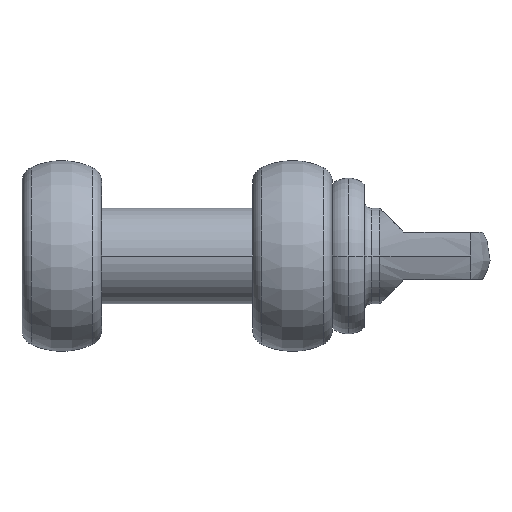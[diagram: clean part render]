
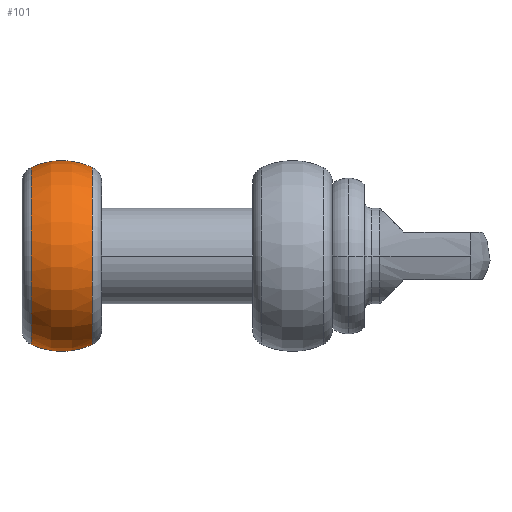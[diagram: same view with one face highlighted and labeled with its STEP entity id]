
A CAD part, front view. The second image highlights one B-rep face of the part: STEP entity #101.
In plain terms, the highlighted toroidal (fillet/blend) face has major radius 1.5 mm and minor radius 4.5 mm.
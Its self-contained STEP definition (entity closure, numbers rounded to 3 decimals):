
#101=ADVANCED_FACE('',(#429),#430,.T.);
#429=FACE_OUTER_BOUND('',#1061,.T.);
#430=TOROIDAL_SURFACE('',#1062,1.5,4.5);
#1061=EDGE_LOOP('',(#4964,#4965,#4966,#4967));
#1062=AXIS2_PLACEMENT_3D('',#4968,#4969,#4970);
#4964=ORIENTED_EDGE('',*,*,#7176,.F.);
#4965=ORIENTED_EDGE('',*,*,#7172,.F.);
#4966=ORIENTED_EDGE('',*,*,#7173,.F.);
#4967=ORIENTED_EDGE('',*,*,#7164,.F.);
#4968=CARTESIAN_POINT('',(-7.25,0.0,0.0));
#4969=DIRECTION('',(-1.0,0.0,0.0));
#4970=DIRECTION('',(0.0,0.0,-1.0));
#7164=EDGE_CURVE('',#8043,#8054,#8057,.T.);
#7172=EDGE_CURVE('',#8058,#8069,#8072,.T.);
#7173=EDGE_CURVE('',#8054,#8058,#8073,.T.);
#7176=EDGE_CURVE('',#8069,#8043,#8077,.T.);
#8043=VERTEX_POINT('',#9629);
#8054=VERTEX_POINT('',#9645);
#8057=CIRCLE('',#9648,5.566);
#8058=VERTEX_POINT('',#9649);
#8069=VERTEX_POINT('',#9665);
#8072=CIRCLE('',#9668,5.566);
#8073=CIRCLE('',#9669,4.5);
#8077=CIRCLE('',#9682,4.5);
#9629=CARTESIAN_POINT('',(-9.179,0.,-5.566));
#9645=CARTESIAN_POINT('',(-9.179,0.,5.566));
#9648=AXIS2_PLACEMENT_3D('',#14190,#14191,#14192);
#9649=CARTESIAN_POINT('',(-5.321,0.,5.566));
#9665=CARTESIAN_POINT('',(-5.321,0.,-5.566));
#9668=AXIS2_PLACEMENT_3D('',#14211,#14212,#14213);
#9669=AXIS2_PLACEMENT_3D('',#14214,#14215,#14216);
#9682=AXIS2_PLACEMENT_3D('',#14220,#14221,#14222);
#14190=CARTESIAN_POINT('',(-9.179,0.0,0.0));
#14191=DIRECTION('',(-1.0,0.0,0.0));
#14192=DIRECTION('',(0.0,0.0,1.0));
#14211=CARTESIAN_POINT('',(-5.321,0.0,0.0));
#14212=DIRECTION('',(1.0,-0.0,0.0));
#14213=DIRECTION('',(0.0,0.0,-1.0));
#14214=CARTESIAN_POINT('',(-7.25,0.,1.5));
#14215=DIRECTION('',(0.0,1.0,0.));
#14216=DIRECTION('',(0.0,0.,1.0));
#14220=CARTESIAN_POINT('',(-7.25,0.,-1.5));
#14221=DIRECTION('',(0.0,1.0,0.));
#14222=DIRECTION('',(-0.0,0.,-1.0));
